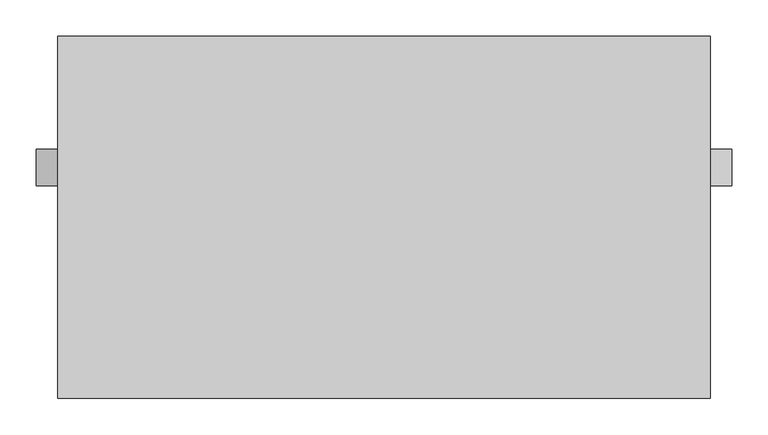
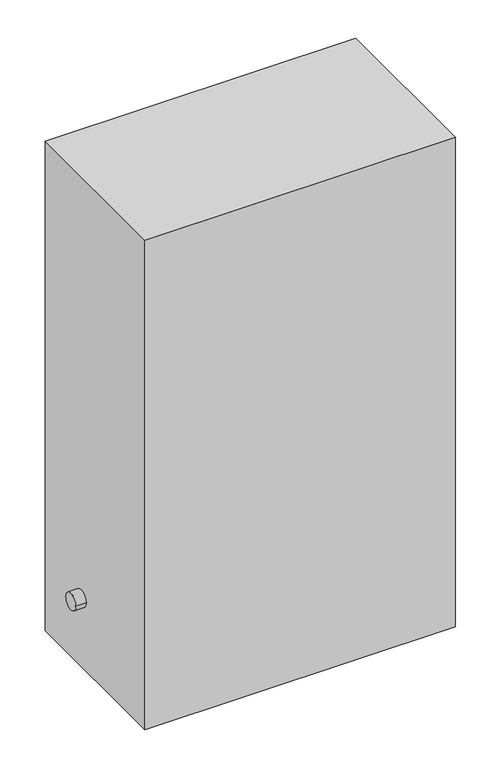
"""IFC4 building model written with IfcOpenShell, lengths in millimetres: sanitary terminal geometry, 02040_PU_増圧給水ポンプユニット_立形 : 50φ."""

from ifc_helpers import new_model, si_unit, point, frame, frame_2d, origin, place, context, project, spatial, polyline, circle_curve, trimmed, segment, composite_curve, outline, extrude, source, transform, mapped, element, save


def sanitary_terminal_007ee198(model_context):
    return source(origin(), model_context, "Body", "SweptSolid", [
        extrude(outline(composite_curve([segment(trimmed(circle_curve(frame_2d((69.0, 510.0)), 25.0), [point((44.0, 510.0))], [point((94.0, 510.0))], False, "CARTESIAN"), True, "CONTINUOUS"), segment(trimmed(circle_curve(frame_2d((69.0, 510.0)), 25.0), [point((94.0, 510.0))], [point((44.0, 510.0))], False, "CARTESIAN"), True, "CONTINUOUS")], self_intersect=False)), frame((450.0, 0.0, 0.0), z_axis=(1.0, 0.0, 0.0), x_axis=(0.0, 1.0, 0.0)), (0.0, 0.0, 1.0), 30.0),
        extrude(outline(composite_curve([segment(trimmed(circle_curve(frame_2d((69.0, 510.0)), 25.0), [point((94.0, 510.0))], [point((44.0, 510.0))], False, "CARTESIAN"), True, "CONTINUOUS"), segment(trimmed(circle_curve(frame_2d((69.0, 510.0)), 25.0), [point((44.0, 510.0))], [point((94.0, 510.0))], False, "CARTESIAN"), True, "CONTINUOUS")], self_intersect=False)), frame((-480.0, 0.0, 0.0), z_axis=(1.0, 0.0, 0.0), x_axis=(0.0, 1.0, 0.0)), (0.0, 0.0, 1.0), 30.0),
        extrude(outline(polyline([(450.0, -250.0), (-450.0, -250.0), (-450.0, 250.0), (450.0, 250.0), (450.0, -250.0)])), frame((0.0, 0.0, 300.0), z_axis=(0.0, 0.0, 1.0), x_axis=(1.0, 0.0, 0.0)), (0.0, 0.0, 1.0), 1500.0),
    ])


if __name__ == "__main__":
    model = new_model("IFC4")
    model_context = context("Model", 3, world=origin())
    ifc_project = project(units=[si_unit("LENGTHUNIT", "METRE", prefix="MILLI")], contexts=[model_context])
    site = spatial("IfcSite", under=ifc_project)
    building = spatial("IfcBuilding", under=site)
    placement = place(None, origin())
    sanitary_terminal_shape = sanitary_terminal_007ee198(model_context)
    element("IfcSanitaryTerminal", 1, ObjectType="02040_PU_増圧給水ポンプユニット_立形 : 50φ", at=placement, inside=building, context=model_context, shape_type="MappedRepresentation", body=[
        mapped(sanitary_terminal_shape, transform((0.0, 0.0, 0.0), x_axis=(1.0, 0.0, 0.0), y_axis=(0.0, 1.0, 0.0), z_axis=(0.0, 0.0, 1.0))),
    ])
    save(model, "model.ifc")
